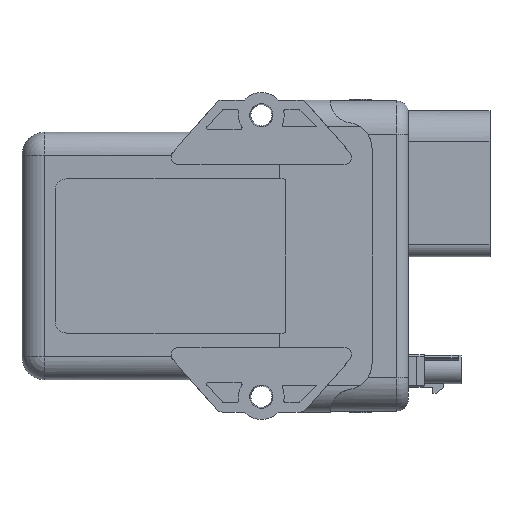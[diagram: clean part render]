
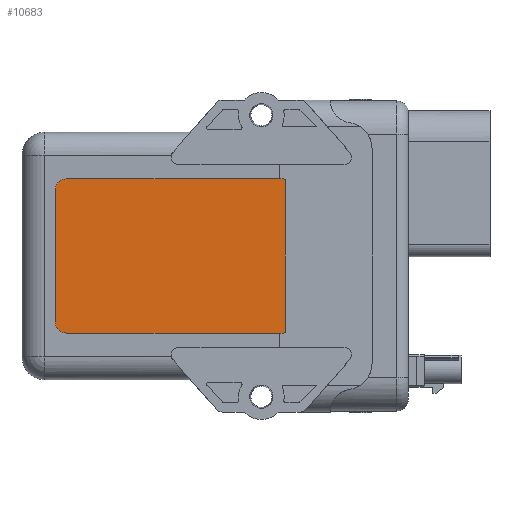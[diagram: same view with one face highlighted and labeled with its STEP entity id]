
A CAD part, front view. The second image highlights one B-rep face of the part: STEP entity #10683.
In plain terms, the highlighted planar face has unit normal (0, -1, 0).
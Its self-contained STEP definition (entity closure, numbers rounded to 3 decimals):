
#280=PLANE('',#11367);
#1036=LINE('',#15765,#1835);
#1039=LINE('',#15773,#1838);
#1042=LINE('',#15781,#1841);
#1045=LINE('',#15789,#1844);
#1835=VECTOR('',#13319,1000.);
#1838=VECTOR('',#13328,1000.);
#1841=VECTOR('',#13337,1000.);
#1844=VECTOR('',#13346,1000.);
#3773=ORIENTED_EDGE('',*,*,#5114,.F.);
#3774=ORIENTED_EDGE('',*,*,#5128,.F.);
#3775=ORIENTED_EDGE('',*,*,#5126,.F.);
#3776=ORIENTED_EDGE('',*,*,#5124,.F.);
#3777=ORIENTED_EDGE('',*,*,#5122,.F.);
#3778=ORIENTED_EDGE('',*,*,#5120,.F.);
#3779=ORIENTED_EDGE('',*,*,#5118,.F.);
#3780=ORIENTED_EDGE('',*,*,#5116,.F.);
#5114=EDGE_CURVE('',#5927,#5928,#1036,.T.);
#5116=EDGE_CURVE('',#5928,#5929,#6232,.T.);
#5118=EDGE_CURVE('',#5929,#5930,#1039,.T.);
#5120=EDGE_CURVE('',#5930,#5931,#6233,.T.);
#5122=EDGE_CURVE('',#5931,#5932,#1042,.T.);
#5124=EDGE_CURVE('',#5932,#5933,#6234,.T.);
#5126=EDGE_CURVE('',#5933,#5934,#1045,.T.);
#5128=EDGE_CURVE('',#5934,#5927,#6235,.T.);
#5927=VERTEX_POINT('',#15764);
#5928=VERTEX_POINT('',#15766);
#5929=VERTEX_POINT('',#15770);
#5930=VERTEX_POINT('',#15774);
#5931=VERTEX_POINT('',#15778);
#5932=VERTEX_POINT('',#15782);
#5933=VERTEX_POINT('',#15786);
#5934=VERTEX_POINT('',#15790);
#6232=CIRCLE('',#11357,3.);
#6233=CIRCLE('',#11360,0.5);
#6234=CIRCLE('',#11363,0.5);
#6235=CIRCLE('',#11366,3.);
#6637=EDGE_LOOP('',(#3773,#3774,#3775,#3776,#3777,#3778,#3779,#3780));
#7122=FACE_BOUND('',#6637,.T.);
#10683=ADVANCED_FACE('',(#7122),#280,.F.);
#11357=AXIS2_PLACEMENT_3D('',#15769,#13323,#13324);
#11360=AXIS2_PLACEMENT_3D('',#15777,#13332,#13333);
#11363=AXIS2_PLACEMENT_3D('',#15785,#13341,#13342);
#11366=AXIS2_PLACEMENT_3D('',#15793,#13350,#13351);
#11367=AXIS2_PLACEMENT_3D('',#15794,#13352,#13353);
#13319=DIRECTION('',(0.,0.,1.));
#13323=DIRECTION('',(0.,1.,0.));
#13324=DIRECTION('',(1.,0.,0.));
#13328=DIRECTION('',(1.,0.,0.));
#13332=DIRECTION('',(0.,1.,0.));
#13333=DIRECTION('',(1.,0.,0.));
#13337=DIRECTION('',(0.,0.,-1.));
#13341=DIRECTION('',(0.,1.,0.));
#13342=DIRECTION('',(1.,0.,0.));
#13346=DIRECTION('',(-1.,0.,0.));
#13350=DIRECTION('',(0.,1.,0.));
#13351=DIRECTION('',(1.,0.,0.));
#13352=DIRECTION('',(0.,1.,0.));
#13353=DIRECTION('',(0.,0.,1.));
#15764=CARTESIAN_POINT('',(8.72,1.919,-17.25));
#15765=CARTESIAN_POINT('',(8.72,1.919,-17.25));
#15766=CARTESIAN_POINT('',(8.72,1.919,17.25));
#15769=CARTESIAN_POINT('',(11.72,1.919,17.25));
#15770=CARTESIAN_POINT('',(11.72,1.919,20.25));
#15773=CARTESIAN_POINT('',(11.72,1.919,20.25));
#15774=CARTESIAN_POINT('',(68.72,1.919,20.25));
#15777=CARTESIAN_POINT('',(68.72,1.919,19.75));
#15778=CARTESIAN_POINT('',(69.22,1.919,19.75));
#15781=CARTESIAN_POINT('',(69.22,1.919,19.75));
#15782=CARTESIAN_POINT('',(69.22,1.919,-19.75));
#15785=CARTESIAN_POINT('',(68.72,1.919,-19.75));
#15786=CARTESIAN_POINT('',(68.72,1.919,-20.25));
#15789=CARTESIAN_POINT('',(68.72,1.919,-20.25));
#15790=CARTESIAN_POINT('',(11.72,1.919,-20.25));
#15793=CARTESIAN_POINT('',(11.72,1.919,-17.25));
#15794=CARTESIAN_POINT('',(11.72,1.919,17.25));
